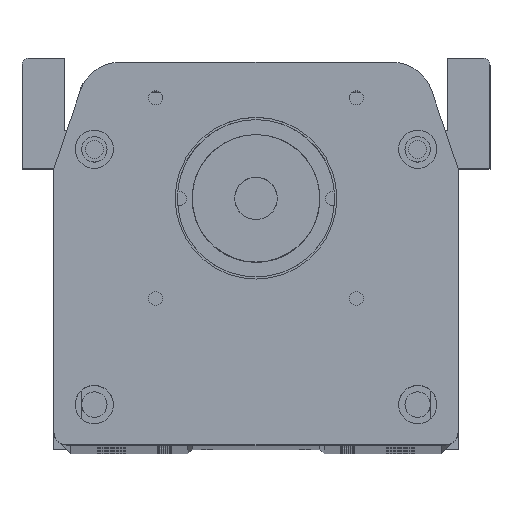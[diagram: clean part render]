
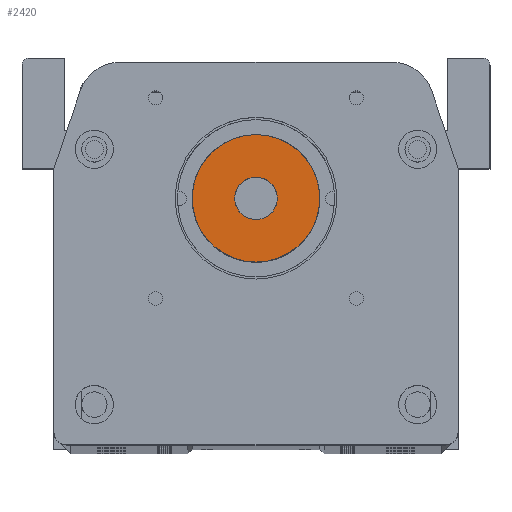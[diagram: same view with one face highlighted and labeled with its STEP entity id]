
A CAD part, top view. The second image highlights one B-rep face of the part: STEP entity #2420.
In plain terms, the highlighted planar face has unit normal (0, 0, 1).
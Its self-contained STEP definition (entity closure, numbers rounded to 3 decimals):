
#1313 = AXIS2_PLACEMENT_3D ( 'NONE', #34236, #43782, #42488 ) ;
#2420 = ADVANCED_FACE ( 'NONE', ( #21285, #39077 ), #43732, .T. ) ;
#2671 = AXIS2_PLACEMENT_3D ( 'NONE', #38987, #17646, #42604 ) ;
#5446 = EDGE_CURVE ( 'NONE', #20819, #31413, #11834, .T. ) ;
#7151 = AXIS2_PLACEMENT_3D ( 'NONE', #42484, #21158, #46037 ) ;
#7641 = EDGE_CURVE ( 'NONE', #31413, #20819, #8845, .T. ) ;
#8845 = CIRCLE ( 'NONE', #2671, 5.003 ) ;
#10543 = VERTEX_POINT ( 'NONE', #17012 ) ;
#10769 = EDGE_LOOP ( 'NONE', ( #38386, #39998 ) ) ;
#11834 = CIRCLE ( 'NONE', #25200, 5.003 ) ;
#13635 = DIRECTION ( 'NONE',  ( 0., 0., 1. ) ) ;
#13721 = DIRECTION ( 'NONE',  ( 0., 0., 1. ) ) ;
#16386 = ORIENTED_EDGE ( 'NONE', *, *, #38203, .T. ) ;
#17012 = CARTESIAN_POINT ( 'NONE',  ( 8.817, 0., 40.753 ) ) ;
#17646 = DIRECTION ( 'NONE',  ( 0., 0., 1. ) ) ;
#20819 = VERTEX_POINT ( 'NONE', #35773 ) ;
#21158 = DIRECTION ( 'NONE',  ( 0., 0., 1. ) ) ;
#21285 = FACE_OUTER_BOUND ( 'NONE', #43580, .T. ) ;
#23248 = EDGE_CURVE ( 'NONE', #25634, #10543, #25111, .T. ) ;
#25111 = CIRCLE ( 'NONE', #34525, 14.978 ) ;
#25200 = AXIS2_PLACEMENT_3D ( 'NONE', #35011, #13635, #38604 ) ;
#25634 = VERTEX_POINT ( 'NONE', #27134 ) ;
#27134 = CARTESIAN_POINT ( 'NONE',  ( -21.138, 0., 40.753 ) ) ;
#31413 = VERTEX_POINT ( 'NONE', #43658 ) ;
#34236 = CARTESIAN_POINT ( 'NONE',  ( -6.16, 0., 40.753 ) ) ;
#34525 = AXIS2_PLACEMENT_3D ( 'NONE', #35098, #13721, #38701 ) ;
#35011 = CARTESIAN_POINT ( 'NONE',  ( -6.16, 0., 40.753 ) ) ;
#35098 = CARTESIAN_POINT ( 'NONE',  ( -6.16, 0., 40.753 ) ) ;
#35773 = CARTESIAN_POINT ( 'NONE',  ( -11.163, 0., 40.753 ) ) ;
#36631 = ORIENTED_EDGE ( 'NONE', *, *, #23248, .T. ) ;
#38203 = EDGE_CURVE ( 'NONE', #10543, #25634, #42070, .T. ) ;
#38386 = ORIENTED_EDGE ( 'NONE', *, *, #5446, .F. ) ;
#38604 = DIRECTION ( 'NONE',  ( 1., 0., 0. ) ) ;
#38701 = DIRECTION ( 'NONE',  ( 1., 0., 0. ) ) ;
#38987 = CARTESIAN_POINT ( 'NONE',  ( -6.16, 0., 40.753 ) ) ;
#39077 = FACE_BOUND ( 'NONE', #10769, .T. ) ;
#39998 = ORIENTED_EDGE ( 'NONE', *, *, #7641, .F. ) ;
#42070 = CIRCLE ( 'NONE', #7151, 14.978 ) ;
#42484 = CARTESIAN_POINT ( 'NONE',  ( -6.16, 0., 40.753 ) ) ;
#42488 = DIRECTION ( 'NONE',  ( 1., 0., 0. ) ) ;
#42604 = DIRECTION ( 'NONE',  ( 1., 0., 0. ) ) ;
#43580 = EDGE_LOOP ( 'NONE', ( #36631, #16386 ) ) ;
#43658 = CARTESIAN_POINT ( 'NONE',  ( -1.157, 0., 40.753 ) ) ;
#43732 = PLANE ( 'NONE',  #1313 ) ;
#43782 = DIRECTION ( 'NONE',  ( 0., 0., 1. ) ) ;
#46037 = DIRECTION ( 'NONE',  ( 1., 0., 0. ) ) ;
